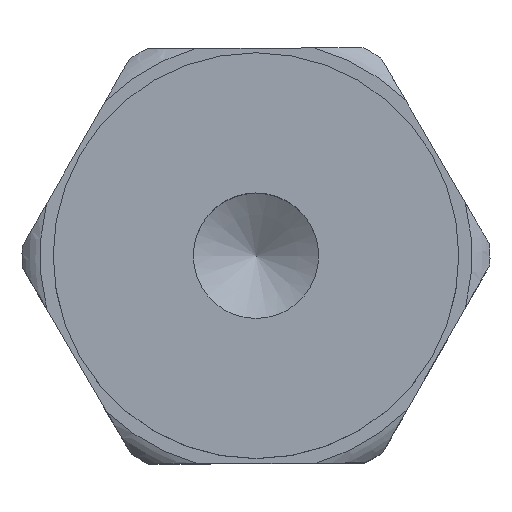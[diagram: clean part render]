
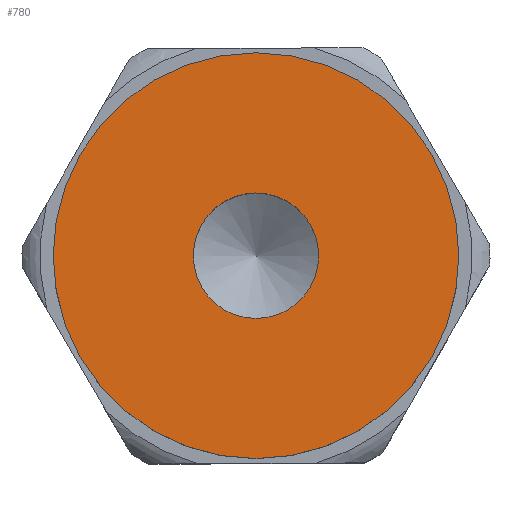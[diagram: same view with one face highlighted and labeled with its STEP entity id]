
A CAD part, top view. The second image highlights one B-rep face of the part: STEP entity #780.
In plain terms, the highlighted planar face has unit normal (0, 0, 1).
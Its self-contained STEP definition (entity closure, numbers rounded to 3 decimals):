
#137=PLANE('',#897);
#158=FACE_BOUND('',#291,.T.);
#222=FACE_OUTER_BOUND('',#290,.T.);
#290=EDGE_LOOP('',(#694));
#291=EDGE_LOOP('',(#695));
#298=CIRCLE('',#807,3.324);
#341=CIRCLE('',#894,10.75);
#344=VERTEX_POINT('',#1136);
#416=VERTEX_POINT('',#1471);
#419=EDGE_CURVE('',#344,#344,#298,.T.);
#518=EDGE_CURVE('',#416,#416,#341,.T.);
#694=ORIENTED_EDGE('',*,*,#518,.T.);
#695=ORIENTED_EDGE('',*,*,#419,.T.);
#780=ADVANCED_FACE('',(#222,#158),#137,.T.);
#807=AXIS2_PLACEMENT_3D('',#1137,#909,#910);
#894=AXIS2_PLACEMENT_3D('',#1472,#1115,#1116);
#897=AXIS2_PLACEMENT_3D('',#1476,#1121,#1122);
#909=DIRECTION('center_axis',(0.,0.,-1.));
#910=DIRECTION('ref_axis',(1.,0.,0.));
#1115=DIRECTION('center_axis',(0.,0.,1.));
#1116=DIRECTION('ref_axis',(-1.,0.,0.));
#1121=DIRECTION('center_axis',(0.,0.,1.));
#1122=DIRECTION('ref_axis',(1.,0.,0.));
#1136=CARTESIAN_POINT('',(3.324,0.,15.6));
#1137=CARTESIAN_POINT('Origin',(0.,0.,15.6));
#1471=CARTESIAN_POINT('',(10.75,0.,15.6));
#1472=CARTESIAN_POINT('Origin',(0.,0.,15.6));
#1476=CARTESIAN_POINT('Origin',(0.,0.,15.6));
